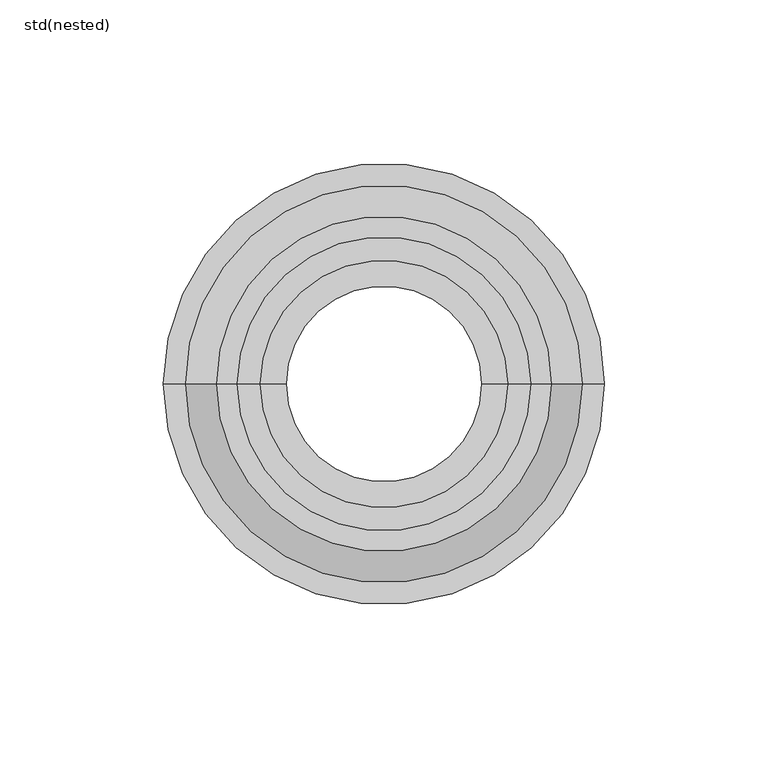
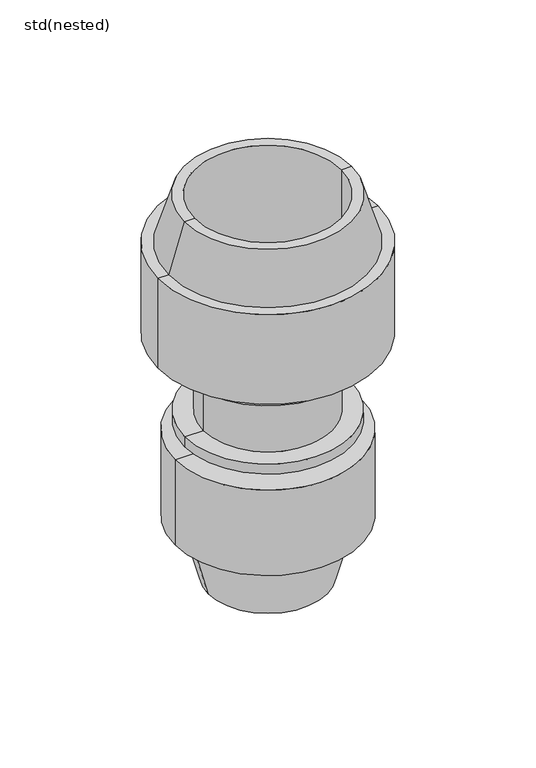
"""IFC4 building model written with IfcOpenShell, lengths in millimetres: pipe fitting geometry, ZZZ_do not use_PIF_PP_WPB_compression fitting_ACO : std(nested)."""

from ifc_helpers import new_model, si_unit, frame, origin, origin_with_axes, place, context, project, spatial, polyline, circle_curve, source, transform, mapped, element, save
from ifc_brep_helpers import plane_surface, cylinder_surface, revolved_surface, advanced_brep


def std_nested_4dc9f993(model_context):
    return source(origin(), model_context, "Body", "AdvancedBrep", [
        advanced_brep(
        [(-67.4201527, 0.0, 214.9000895), (67.4201527, 0.0, 214.9000895), (67.4201527, 0.0, 157.0), (-67.4201527, 0.0, 157.0), (-60.8081968, 0.0, 214.9000895), (60.8081968, 0.0, 214.9000895), (-51.3, 0.0, 246.0), (51.3, 0.0, 246.0), (-45.0, 0.0, 246.0), (45.0, 0.0, 246.0), (-45.0, 0.0, 157.0), (45.0, 0.0, 157.0)],
        [
            (0, 1, circle_curve(frame((0.0, 0.0, 214.9000895), z_axis=(0.0, 0.0, -1.0), x_axis=(1.0, 0.0, 0.0)), 67.4201527)),
            (1, 2),
            (2, 3, circle_curve(frame((0.0, 0.0, 157.0), z_axis=(0.0, 0.0, 1.0), x_axis=(1.0, 0.0, 0.0)), 67.4201527)),
            (3, 0),
            (1, 0, circle_curve(frame((0.0, 0.0, 214.9000895), z_axis=(0.0, 0.0, -1.0), x_axis=(1.0, 0.0, 0.0)), 67.4201527)),
            (3, 2, circle_curve(frame((0.0, 0.0, 157.0), z_axis=(0.0, 0.0, 1.0), x_axis=(1.0, 0.0, 0.0)), 67.4201527)),
            (4, 5, circle_curve(frame((0.0, 0.0, 214.9000895), z_axis=(0.0, 0.0, -1.0), x_axis=(1.0, 0.0, 0.0)), 60.8081968)),
            (5, 1),
            (0, 4),
            (5, 4, circle_curve(frame((0.0, 0.0, 214.9000895), z_axis=(0.0, 0.0, -1.0), x_axis=(1.0, 0.0, 0.0)), 60.8081968)),
            (6, 7, circle_curve(frame((0.0, 0.0, 246.0), z_axis=(0.0, 0.0, -1.0), x_axis=(1.0, 0.0, 0.0)), 51.3)),
            (7, 5),
            (4, 6),
            (7, 6, circle_curve(frame((0.0, 0.0, 246.0), z_axis=(0.0, 0.0, -1.0), x_axis=(1.0, 0.0, 0.0)), 51.3)),
            (8, 9, circle_curve(frame((0.0, 0.0, 246.0), z_axis=(0.0, 0.0, -1.0), x_axis=(1.0, 0.0, 0.0)), 45.0)),
            (9, 7),
            (6, 8),
            (9, 8, circle_curve(frame((0.0, 0.0, 246.0), z_axis=(0.0, 0.0, -1.0), x_axis=(1.0, 0.0, 0.0)), 45.0)),
            (10, 11, circle_curve(frame((0.0, 0.0, 157.0), z_axis=(0.0, 0.0, -1.0), x_axis=(1.0, 0.0, 0.0)), 45.0)),
            (11, 9),
            (8, 10),
            (11, 10, circle_curve(frame((0.0, 0.0, 157.0), z_axis=(0.0, 0.0, -1.0), x_axis=(1.0, 0.0, 0.0)), 45.0)),
            (2, 11),
            (10, 3),
        ],
        [
            cylinder_surface(frame((0.0, 0.0, 260.8804854), z_axis=(0.0, 0.0, 1.0), x_axis=(1.0, 0.0, 0.0)), 67.4201527),
            plane_surface(frame((0.0, 0.0, 214.9000895), z_axis=(0.0, 0.0, 1.0), x_axis=(1.0, 0.0, 0.0))),
            revolved_surface(polyline([(60.8081968, 0.0, 214.9000895), (51.3, 0.0, 246.0)]), (0.0, 0.0, 260.8804854), (0.0, 0.0, 1.0)),
            plane_surface(frame((0.0, 0.0, 246.0), z_axis=(0.0, 0.0, 1.0), x_axis=(1.0, 0.0, 0.0))),
            revolved_surface(polyline([(45.0, 0.0, 246.0), (45.0, 0.0, 157.0)]), (0.0, 0.0, 260.8804854), (0.0, 0.0, 1.0)),
            plane_surface(frame((0.0, 0.0, 157.0), z_axis=(0.0, 0.0, -1.0), x_axis=(1.0, 0.0, 0.0))),
        ],
        [
            (0, [[1, 2, 3, 4]]),
            (0, [[5, -4, 6, -2]]),
            (1, [[7, 8, -1, 9]]),
            (1, [[10, -9, -5, -8]]),
            (2, [[11, 12, -7, 13]]),
            (2, [[14, -13, -10, -12]]),
            (3, [[15, 16, -11, 17]]),
            (3, [[18, -17, -14, -16]]),
            (4, [[19, 20, -15, 21]]),
            (4, [[22, -21, -18, -20]]),
            (5, [[-3, 23, -19, 24]]),
            (5, [[-6, -24, -22, -23]]),
        ],
    ),
        advanced_brep(
        [(-37.8, 0.0, 94.0), (37.8, 0.0, 94.0), (29.925, 0.0, 94.0), (-29.925, 0.0, 94.0), (-37.8, 0.0, 100.3), (37.8, 0.0, 100.3), (-50.85, 0.0, 100.3), (50.85, 0.0, 100.3), (-50.85, 0.0, 106.6), (50.85, 0.0, 106.6), (-39.55, 0.0, 106.6), (39.55, 0.0, 106.6), (-39.55, 0.0, 144.4), (39.55, 0.0, 144.4), (-50.85, 0.0, 144.4), (50.85, 0.0, 144.4), (-50.85, 0.0, 150.7), (50.85, 0.0, 150.7), (-37.8, 0.0, 150.7), (37.8, 0.0, 150.7), (-37.8, 0.0, 157.0), (37.8, 0.0, 157.0), (-29.925, 0.0, 157.0), (29.925, 0.0, 157.0)],
        [
            (0, 1, circle_curve(frame((0.0, 0.0, 94.0), z_axis=(0.0, 0.0, -1.0), x_axis=(1.0, 0.0, 0.0)), 37.8)),
            (1, 2),
            (2, 3, circle_curve(frame((0.0, 0.0, 94.0), z_axis=(0.0, 0.0, 1.0), x_axis=(1.0, 0.0, 0.0)), 29.925)),
            (3, 0),
            (1, 0, circle_curve(frame((0.0, 0.0, 94.0), z_axis=(0.0, 0.0, -1.0), x_axis=(1.0, 0.0, 0.0)), 37.8)),
            (3, 2, circle_curve(frame((0.0, 0.0, 94.0), z_axis=(0.0, 0.0, 1.0), x_axis=(1.0, 0.0, 0.0)), 29.925)),
            (4, 5, circle_curve(frame((0.0, 0.0, 100.3), z_axis=(0.0, 0.0, -1.0), x_axis=(1.0, 0.0, 0.0)), 37.8)),
            (5, 1),
            (0, 4),
            (5, 4, circle_curve(frame((0.0, 0.0, 100.3), z_axis=(0.0, 0.0, -1.0), x_axis=(1.0, 0.0, 0.0)), 37.8)),
            (6, 7, circle_curve(frame((0.0, 0.0, 100.3), z_axis=(0.0, 0.0, -1.0), x_axis=(1.0, 0.0, 0.0)), 50.85)),
            (7, 5),
            (4, 6),
            (7, 6, circle_curve(frame((0.0, 0.0, 100.3), z_axis=(0.0, 0.0, -1.0), x_axis=(1.0, 0.0, 0.0)), 50.85)),
            (8, 9, circle_curve(frame((0.0, 0.0, 106.6), z_axis=(0.0, 0.0, -1.0), x_axis=(1.0, 0.0, 0.0)), 50.85)),
            (9, 7),
            (6, 8),
            (9, 8, circle_curve(frame((0.0, 0.0, 106.6), z_axis=(0.0, 0.0, -1.0), x_axis=(1.0, 0.0, 0.0)), 50.85)),
            (10, 11, circle_curve(frame((0.0, 0.0, 106.6), z_axis=(0.0, 0.0, -1.0), x_axis=(1.0, 0.0, 0.0)), 39.55)),
            (11, 9),
            (8, 10),
            (11, 10, circle_curve(frame((0.0, 0.0, 106.6), z_axis=(0.0, 0.0, -1.0), x_axis=(1.0, 0.0, 0.0)), 39.55)),
            (12, 13, circle_curve(frame((0.0, 0.0, 144.4), z_axis=(0.0, 0.0, -1.0), x_axis=(1.0, 0.0, 0.0)), 39.55)),
            (13, 11),
            (10, 12),
            (13, 12, circle_curve(frame((0.0, 0.0, 144.4), z_axis=(0.0, 0.0, -1.0), x_axis=(1.0, 0.0, 0.0)), 39.55)),
            (14, 15, circle_curve(frame((0.0, 0.0, 144.4), z_axis=(0.0, 0.0, -1.0), x_axis=(1.0, 0.0, 0.0)), 50.85)),
            (15, 13),
            (12, 14),
            (15, 14, circle_curve(frame((0.0, 0.0, 144.4), z_axis=(0.0, 0.0, -1.0), x_axis=(1.0, 0.0, 0.0)), 50.85)),
            (16, 17, circle_curve(frame((0.0, 0.0, 150.7), z_axis=(0.0, 0.0, -1.0), x_axis=(1.0, 0.0, 0.0)), 50.85)),
            (17, 15),
            (14, 16),
            (17, 16, circle_curve(frame((0.0, 0.0, 150.7), z_axis=(0.0, 0.0, -1.0), x_axis=(1.0, 0.0, 0.0)), 50.85)),
            (18, 19, circle_curve(frame((0.0, 0.0, 150.7), z_axis=(0.0, 0.0, -1.0), x_axis=(1.0, 0.0, 0.0)), 37.8)),
            (19, 17),
            (16, 18),
            (19, 18, circle_curve(frame((0.0, 0.0, 150.7), z_axis=(0.0, 0.0, -1.0), x_axis=(1.0, 0.0, 0.0)), 37.8)),
            (20, 21, circle_curve(frame((0.0, 0.0, 157.0), z_axis=(0.0, 0.0, -1.0), x_axis=(1.0, 0.0, 0.0)), 37.8)),
            (21, 19),
            (18, 20),
            (21, 20, circle_curve(frame((0.0, 0.0, 157.0), z_axis=(0.0, 0.0, -1.0), x_axis=(1.0, 0.0, 0.0)), 37.8)),
            (22, 23, circle_curve(frame((0.0, 0.0, 157.0), z_axis=(0.0, 0.0, -1.0), x_axis=(1.0, 0.0, 0.0)), 29.925)),
            (23, 21),
            (20, 22),
            (23, 22, circle_curve(frame((0.0, 0.0, 157.0), z_axis=(0.0, 0.0, -1.0), x_axis=(1.0, 0.0, 0.0)), 29.925)),
            (2, 23),
            (22, 3),
        ],
        [
            plane_surface(frame((0.0, 0.0, 94.0), z_axis=(0.0, 0.0, -1.0), x_axis=(1.0, 0.0, 0.0))),
            cylinder_surface(frame((0.0, 0.0, 260.0), z_axis=(0.0, 0.0, 1.0), x_axis=(1.0, 0.0, 0.0)), 37.8),
            plane_surface(frame((0.0, 0.0, 100.3), z_axis=(0.0, 0.0, -1.0), x_axis=(1.0, 0.0, 0.0))),
            cylinder_surface(frame((0.0, 0.0, 260.0), z_axis=(0.0, 0.0, 1.0), x_axis=(1.0, 0.0, 0.0)), 50.85),
            plane_surface(frame((0.0, 0.0, 106.6), z_axis=(0.0, 0.0, 1.0), x_axis=(1.0, 0.0, 0.0))),
            cylinder_surface(frame((0.0, 0.0, 260.0), z_axis=(0.0, 0.0, 1.0), x_axis=(1.0, 0.0, 0.0)), 39.55),
            plane_surface(frame((0.0, 0.0, 144.4), z_axis=(0.0, 0.0, -1.0), x_axis=(1.0, 0.0, 0.0))),
            plane_surface(frame((0.0, 0.0, 150.7), z_axis=(0.0, 0.0, 1.0), x_axis=(1.0, 0.0, 0.0))),
            plane_surface(frame((0.0, 0.0, 157.0), z_axis=(0.0, 0.0, 1.0), x_axis=(1.0, 0.0, 0.0))),
            revolved_surface(polyline([(29.925, 0.0, 157.0), (29.925, 0.0, 94.0)]), (0.0, 0.0, 260.0), (0.0, 0.0, 1.0)),
        ],
        [
            (0, [[1, 2, 3, 4]]),
            (0, [[5, -4, 6, -2]]),
            (1, [[7, 8, -1, 9]]),
            (1, [[10, -9, -5, -8]]),
            (2, [[11, 12, -7, 13]]),
            (2, [[14, -13, -10, -12]]),
            (3, [[15, 16, -11, 17]]),
            (3, [[18, -17, -14, -16]]),
            (4, [[19, 20, -15, 21]]),
            (4, [[22, -21, -18, -20]]),
            (5, [[23, 24, -19, 25]]),
            (5, [[26, -25, -22, -24]]),
            (6, [[27, 28, -23, 29]]),
            (6, [[30, -29, -26, -28]]),
            (3, [[31, 32, -27, 33]]),
            (3, [[34, -33, -30, -32]]),
            (7, [[35, 36, -31, 37]]),
            (7, [[38, -37, -34, -36]]),
            (1, [[39, 40, -35, 41]]),
            (1, [[42, -41, -38, -40]]),
            (8, [[43, 44, -39, 45]]),
            (8, [[46, -45, -42, -44]]),
            (9, [[-3, 47, -43, 48]]),
            (9, [[-6, -48, -46, -47]]),
        ],
    ),
        advanced_brep(
        [(-46.8586666, 0.0, 38.8074039), (46.8586666, 0.0, 38.8074039), (36.460254, 0.0, 0.0), (-36.460254, 0.0, 0.0), (-56.8586666, 0.0, 38.8074039), (56.8586666, 0.0, 38.8074039), (-56.8586666, 0.0, 94.0), (56.8586666, 0.0, 94.0), (-31.5, 0.0, 94.0), (31.5, 0.0, 94.0), (-31.5, 0.0, 0.0), (31.5, 0.0, 0.0)],
        [
            (0, 1, circle_curve(frame((0.0, 0.0, 38.8074039), z_axis=(0.0, 0.0, -1.0), x_axis=(1.0, 0.0, 0.0)), 46.8586666)),
            (1, 2),
            (2, 3, circle_curve(origin_with_axes(), 36.460254)),
            (3, 0),
            (1, 0, circle_curve(frame((0.0, 0.0, 38.8074039), z_axis=(0.0, 0.0, -1.0), x_axis=(1.0, 0.0, 0.0)), 46.8586666)),
            (3, 2, circle_curve(origin_with_axes(), 36.460254)),
            (4, 5, circle_curve(frame((0.0, 0.0, 38.8074039), z_axis=(0.0, 0.0, -1.0), x_axis=(1.0, 0.0, 0.0)), 56.8586666)),
            (5, 1),
            (0, 4),
            (5, 4, circle_curve(frame((0.0, 0.0, 38.8074039), z_axis=(0.0, 0.0, -1.0), x_axis=(1.0, 0.0, 0.0)), 56.8586666)),
            (6, 7, circle_curve(frame((0.0, 0.0, 94.0), z_axis=(0.0, 0.0, -1.0), x_axis=(1.0, 0.0, 0.0)), 56.8586666)),
            (7, 5),
            (4, 6),
            (7, 6, circle_curve(frame((0.0, 0.0, 94.0), z_axis=(0.0, 0.0, -1.0), x_axis=(1.0, 0.0, 0.0)), 56.8586666)),
            (8, 9, circle_curve(frame((0.0, 0.0, 94.0), z_axis=(0.0, 0.0, -1.0), x_axis=(1.0, 0.0, 0.0)), 31.5)),
            (9, 7),
            (6, 8),
            (9, 8, circle_curve(frame((0.0, 0.0, 94.0), z_axis=(0.0, 0.0, -1.0), x_axis=(1.0, 0.0, 0.0)), 31.5)),
            (10, 11, circle_curve(frame((0.0, 0.0, 0.0), z_axis=(0.0, 0.0, -1.0), x_axis=(1.0, 0.0, 0.0)), 31.5)),
            (11, 9),
            (8, 10),
            (11, 10, circle_curve(frame((0.0, 0.0, 0.0), z_axis=(0.0, 0.0, -1.0), x_axis=(1.0, 0.0, 0.0)), 31.5)),
            (2, 11),
            (10, 3),
        ],
        [
            revolved_surface(polyline([(36.460254, 0.0, 0.0), (46.8586666, 0.0, 38.8074039)]), (0.0, 0.0, 295.0), (0.0, 0.0, 1.0)),
            plane_surface(frame((0.0, 0.0, 38.8074039), z_axis=(0.0, 0.0, -1.0), x_axis=(1.0, 0.0, 0.0))),
            cylinder_surface(frame((0.0, 0.0, 295.0), z_axis=(0.0, 0.0, 1.0), x_axis=(1.0, 0.0, 0.0)), 56.8586666),
            plane_surface(frame((0.0, 0.0, 94.0), z_axis=(0.0, 0.0, 1.0), x_axis=(1.0, 0.0, 0.0))),
            revolved_surface(polyline([(31.5, 0.0, 94.0), (31.5, 0.0, 0.0)]), (0.0, 0.0, 295.0), (0.0, 0.0, 1.0)),
            plane_surface(frame((0.0, 0.0, 0.0), z_axis=(0.0, 0.0, -1.0), x_axis=(1.0, 0.0, 0.0))),
        ],
        [
            (0, [[1, 2, 3, 4]]),
            (0, [[5, -4, 6, -2]]),
            (1, [[7, 8, -1, 9]]),
            (1, [[10, -9, -5, -8]]),
            (2, [[11, 12, -7, 13]]),
            (2, [[14, -13, -10, -12]]),
            (3, [[15, 16, -11, 17]]),
            (3, [[18, -17, -14, -16]]),
            (4, [[19, 20, -15, 21]]),
            (4, [[22, -21, -18, -20]]),
            (5, [[-3, 23, -19, 24]]),
            (5, [[-6, -24, -22, -23]]),
        ],
    ),
    ])


if __name__ == "__main__":
    model = new_model("IFC4")
    model_context = context("Model", 3, world=origin())
    ifc_project = project(units=[si_unit("LENGTHUNIT", "METRE", prefix="MILLI")], contexts=[model_context])
    site = spatial("IfcSite", under=ifc_project)
    building = spatial("IfcBuilding", under=site)
    placement = place(None, origin())
    std_nested_shape = std_nested_4dc9f993(model_context)
    element("IfcPipeFitting", 1, ObjectType="ZZZ_do not use_PIF_PP_WPB_compression fitting_ACO : std(nested)", at=placement, inside=building, context=model_context, shape_type="MappedRepresentation", body=[
        mapped(std_nested_shape, transform((0.0, 0.0, 0.0), x_axis=(1.0, 0.0, 0.0), y_axis=(0.0, 1.0, 0.0), z_axis=(0.0, 0.0, 1.0))),
    ])
    save(model, "model.ifc")
